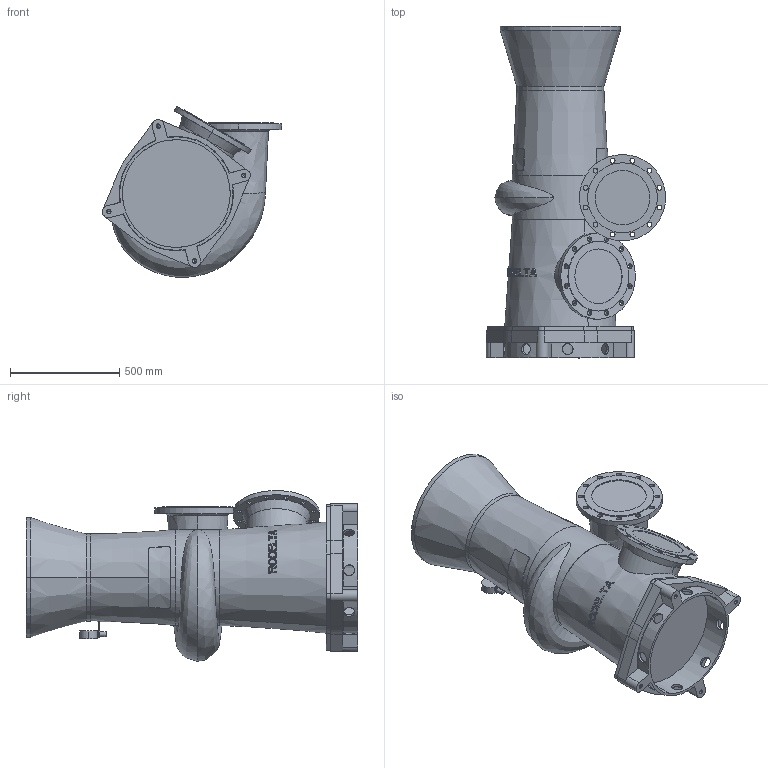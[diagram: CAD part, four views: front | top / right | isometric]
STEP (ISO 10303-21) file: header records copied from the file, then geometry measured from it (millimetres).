
FILE_DESCRIPTION((''),'2;1');
FILE_NAME('8310_VOOR_BLAD_ASM','2024-07-25T',('Lyritlocal'),(''),'PRO/ENGINEER BY PARAMETRIC TECHNOLOGY CORPORATION, 2016360','PRO/ENGINEER BY PARAMETRIC TECHNOLOGY CORPORATION, 2016360','');
FILE_SCHEMA(('CONFIG_CONTROL_DESIGN'));
Length unit declared in the file: millimetre
Products named in the file (3): 8310; 8310_VOET; 8310_VOOR_BLAD_ASM
Assembly tree (2 placements, depth 2):
  8310_VOOR_BLAD_ASM
    8310
    8310_VOET
Bounding box: 821.45 x 1521 x 782.69 mm (x, y, z)
Volume: 290401681.4 mm3; surface area: 4473475.7 mm2
Topology: 2 solids, 6 shells, 545 faces, 1466 edges, 969 vertices
Faces by surface type: plane 342, cylinder 153, cone 40, bspline 6, torus 4
Entity records: 19407 total; most frequent: CARTESIAN_POINT 6110, ORIENTED_EDGE 2900, DIRECTION 2489, EDGE_CURVE 1458, VERTEX_POINT 969, AXIS2_PLACEMENT_3D 967, EDGE_LOOP 661, VECTOR 555
